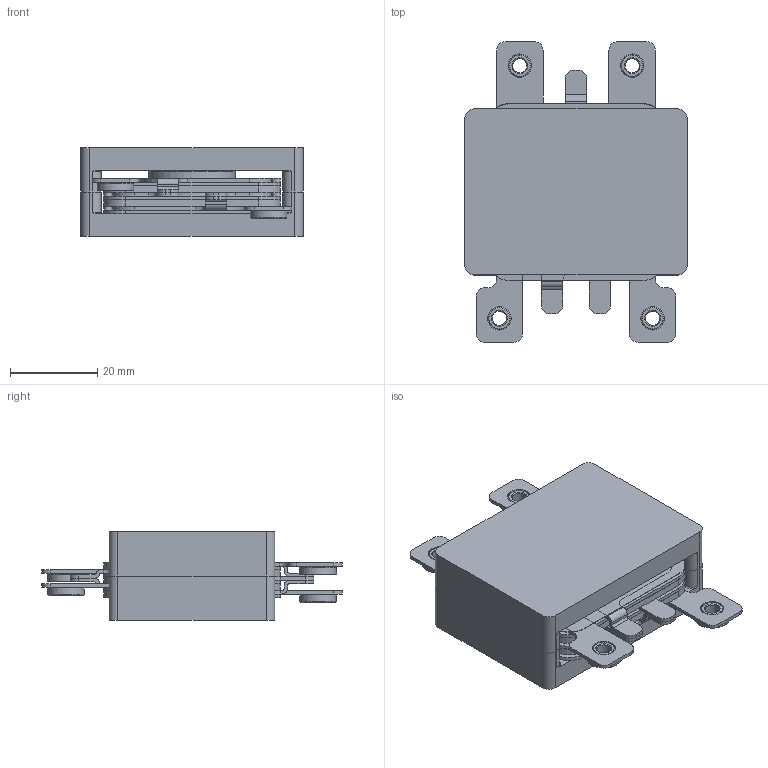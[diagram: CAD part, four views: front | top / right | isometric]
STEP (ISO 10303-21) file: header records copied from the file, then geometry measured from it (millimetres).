
FILE_DESCRIPTION( ( 'Unknown' ), '1' );
FILE_NAME( 'I:/Dev_Inductive/00_Etudes_BE/Suivi_Technique/DEVIS/Devis-BE-2012/A121128_VALEO-PLANAR 2kW/PROTOTYPES/CATALOGUE/CATALOGUE/151207_PLA51LA32_CAO3D.stp', 'Unknown', ( 'smarchio' ), ( 'VISHAY' ), 'PSStep 15.0.49', 'Unknown', ' ' );
FILE_SCHEMA( ( 'AUTOMOTIVE_DESIGN { 1 0 10303 214 1 1 1 1 }' ) );
Length unit declared in the file: millimetre
Products named in the file (8): Assem1; ZA121128_00_FERRITE ER51; ZA121128_T08M; ZA130328_T01-LEAD FRAME 1; ZA130328_T02-LEAD FRAME 2; ZA130328_T03-LEAD FRAME 3; ZA121128_T09_NOMEX; INSERT M4
Assembly tree (17 placements, depth 2):
  Assem1
    ZA121128_00_FERRITE ER51  x2
    ZA121128_T08M  x5
    ZA130328_T01-LEAD FRAME 1  x2
    ZA130328_T02-LEAD FRAME 2  x2
    ZA130328_T03-LEAD FRAME 3
    ZA121128_T09_NOMEX
    INSERT M4  x4
Bounding box: 51 x 69 x 20.32 mm (x, y, z)
Volume: 37471.3 mm3; surface area: 40981 mm2
Topology: 17 solids, 17 shells, 368 faces, 954 edges, 631 vertices
Faces by surface type: plane 170, cylinder 118, cone 70, torus 10
Full cylindrical faces by diameter (mm): 3.242 x4, 5.2 x4, 5.41 x4, 8.4 x4, 20 x2, 20.8 x1
Entity records: 6414 total; most frequent: DIRECTION 916, CARTESIAN_POINT 878, ORIENTED_EDGE 808, EDGE_CURVE 404, AXIS2_PLACEMENT_3D 338, VERTEX_POINT 276, LINE 240, VECTOR 240
